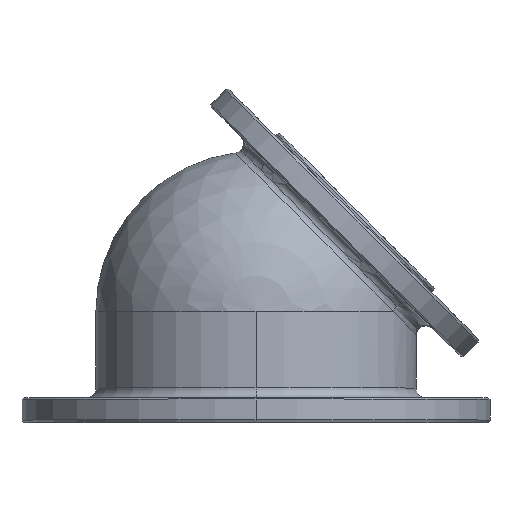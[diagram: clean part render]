
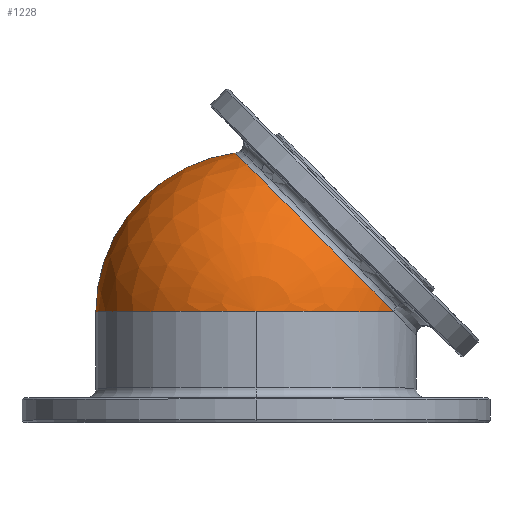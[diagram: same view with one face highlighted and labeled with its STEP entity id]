
A CAD part, top view. The second image highlights one B-rep face of the part: STEP entity #1228.
In plain terms, the highlighted spherical face has radius 65 mm.
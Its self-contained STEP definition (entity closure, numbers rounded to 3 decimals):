
#254 = CIRCLE ( 'NONE', #2306, 65. ) ;
#418 = DIRECTION ( 'NONE',  ( 0., 0., -1. ) ) ;
#655 = EDGE_CURVE ( 'NONE', #2471, #2333, #254, .T. ) ;
#693 = CARTESIAN_POINT ( 'NONE',  ( 0., 45., 0. ) ) ;
#886 = EDGE_CURVE ( 'NONE', #2050, #2333, #1088, .T. ) ;
#983 = DIRECTION ( 'NONE',  ( 0., 0., 1. ) ) ;
#1061 = ORIENTED_EDGE ( 'NONE', *, *, #886, .F. ) ;
#1088 = CIRCLE ( 'NONE', #4116, 65. ) ;
#1138 = CARTESIAN_POINT ( 'NONE',  ( 0., 45., 65. ) ) ;
#1228 = ADVANCED_FACE ( 'NONE', ( #4888 ), #4443, .T. ) ;
#1251 = AXIS2_PLACEMENT_3D ( 'NONE', #4139, #983, #3849 ) ;
#1289 = ORIENTED_EDGE ( 'NONE', *, *, #3338, .T. ) ;
#1455 = DIRECTION ( 'NONE',  ( 0., -1., 0. ) ) ;
#1579 = CARTESIAN_POINT ( 'NONE',  ( -8.534, 109.437, 0. ) ) ;
#1587 = CARTESIAN_POINT ( 'NONE',  ( 0., 45., 0. ) ) ;
#1743 = VERTEX_POINT ( 'NONE', #4319 ) ;
#2050 = VERTEX_POINT ( 'NONE', #1138 ) ;
#2177 = CIRCLE ( 'NONE', #3403, 65. ) ;
#2222 = CARTESIAN_POINT ( 'NONE',  ( -65., 45., 0. ) ) ;
#2281 = DIRECTION ( 'NONE',  ( 0., 0., 1. ) ) ;
#2288 = DIRECTION ( 'NONE',  ( 0.707, -0.707, 0. ) ) ;
#2306 = AXIS2_PLACEMENT_3D ( 'NONE', #1587, #2281, #3441 ) ;
#2333 = VERTEX_POINT ( 'NONE', #2222 ) ;
#2396 = DIRECTION ( 'NONE',  ( 0., -1., 0. ) ) ;
#2471 = VERTEX_POINT ( 'NONE', #1579 ) ;
#2572 = EDGE_LOOP ( 'NONE', ( #1289, #2612, #1061, #4813 ) ) ;
#2612 = ORIENTED_EDGE ( 'NONE', *, *, #655, .T. ) ;
#2661 = CARTESIAN_POINT ( 'NONE',  ( 0., 45., 0. ) ) ;
#2991 = DIRECTION ( 'NONE',  ( -0.707, -0.707, 0. ) ) ;
#3019 = DIRECTION ( 'NONE',  ( 0., 0., -1. ) ) ;
#3338 = EDGE_CURVE ( 'NONE', #1743, #2471, #4866, .T. ) ;
#3403 = AXIS2_PLACEMENT_3D ( 'NONE', #2661, #1455, #3019 ) ;
#3441 = DIRECTION ( 'NONE',  ( 1., 0., 0. ) ) ;
#3849 = DIRECTION ( 'NONE',  ( 1., 0., 0. ) ) ;
#4116 = AXIS2_PLACEMENT_3D ( 'NONE', #693, #2396, #418 ) ;
#4139 = CARTESIAN_POINT ( 'NONE',  ( 0., 45., 0. ) ) ;
#4153 = CARTESIAN_POINT ( 'NONE',  ( 27.951, 72.951, 0. ) ) ;
#4319 = CARTESIAN_POINT ( 'NONE',  ( 55.903, 45., 33.164 ) ) ;
#4368 = AXIS2_PLACEMENT_3D ( 'NONE', #4153, #2991, #2288 ) ;
#4443 = SPHERICAL_SURFACE ( 'NONE', #1251, 65. ) ;
#4669 = EDGE_CURVE ( 'NONE', #1743, #2050, #2177, .T. ) ;
#4813 = ORIENTED_EDGE ( 'NONE', *, *, #4669, .F. ) ;
#4866 = CIRCLE ( 'NONE', #4368, 51.599 ) ;
#4888 = FACE_OUTER_BOUND ( 'NONE', #2572, .T. ) ;
